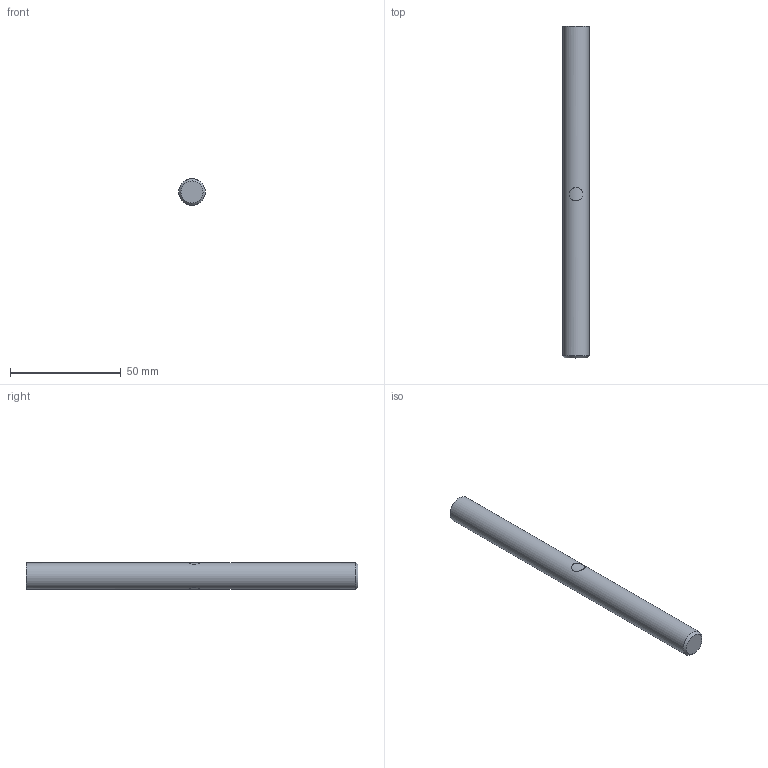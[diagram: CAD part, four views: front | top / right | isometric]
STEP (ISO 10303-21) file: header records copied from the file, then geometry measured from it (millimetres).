
FILE_DESCRIPTION(/* description */ (''),/* implementation_level */ '2;1');
FILE_NAME(/* name */ 'LM-5785-0108-A_UCT LEG.stp',/* time_stamp */ '2026-03-17T14:51:49Z',/* author */ (''),/* organization */ (''),/* preprocessor_version */ 'ST-DEVELOPER v20',/* originating_system */ 'SIEMENS PLM Software NX2312.9162',/* authorisation */ '');
FILE_SCHEMA (('AUTOMOTIVE_DESIGN { 1 0 10303 214 3 1 1 1 }'));
Length unit declared in the file: millimetre
Products named in the file (1): LM-5785-0108_objects
Bounding box: 12 x 150 x 12 mm (x, y, z)
Volume: 16946.8 mm3; surface area: 5857.7 mm2
Topology: 1 solids, 1 shells, 6 faces, 9 edges, 6 vertices
Faces by surface type: cylinder 3, plane 2, cone 1
Full cylindrical faces by diameter (mm): 12 x1
Entity records: 203 total; most frequent: CARTESIAN_POINT 65, DIRECTION 20, EDGE_LOOP 10, ORIENTED_EDGE 10, AXIS2_PLACEMENT_3D 10, FACE_BOUND 6, ADVANCED_FACE 6, VERTEX_POINT 5
